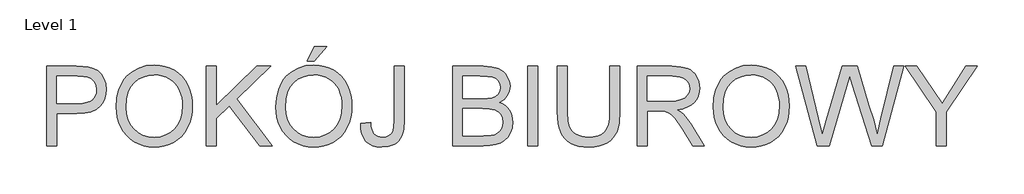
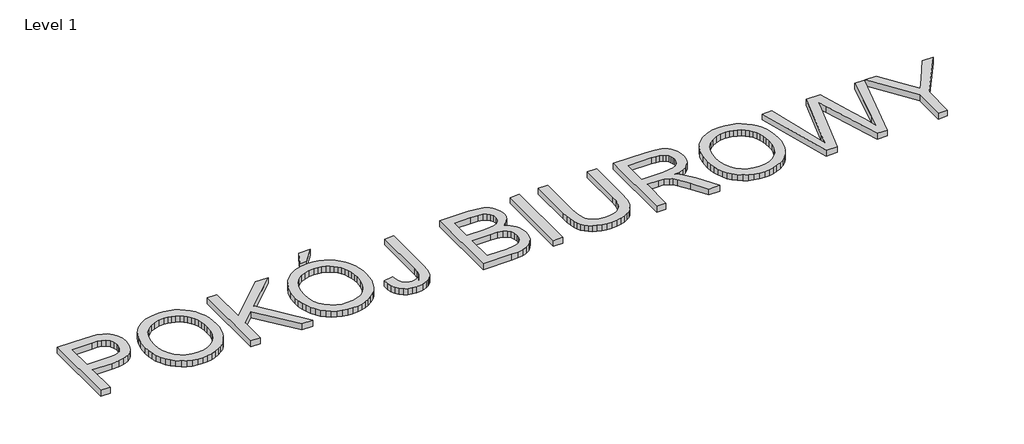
# One storey, part 4 of 4: 1 proxy.
"""IFC4 building model written with IfcOpenShell, lengths in millimetres."""

from ifc_helpers import new_model, si_unit, origin, origin_with_axes, place, context, project, spatial, polyline, outline, extrude, element, save

model = new_model("IFC4")

# Units and contexts
model_context = context("Model", 3, world=origin())
ifc_project = project(units=[si_unit("LENGTHUNIT", "METRE", prefix="MILLI")], contexts=[model_context])

# Site, building, storey
site = spatial("IfcSite", under=ifc_project)
building = spatial("IfcBuilding", under=site)
storey = spatial("IfcBuildingStorey", under=building, Name="Level 1", Elevation=0.0)

# Proxy
placement = place(None, origin())
element("IfcBuildingElementProxy", 1, Name="600mm Arial", ObjectType="600mm Arial", at=placement, inside=storey, context=model_context, shape_type="SweptSolid", body=[
    extrude(outline(polyline([(-1523.9930855, 10203.2190607), (-1523.9930855, 10805.9569216), (-1300.615138, 10805.9569216), (-1248.5966239, 10804.5221818), (-1210.5576256, 10800.2179624), (-1170.4033058, 10789.4942023), (-1137.3491086, 10772.0382016), (-1110.7328462, 10747.0590141), (-1089.8923312, 10713.7656936), (-1076.4278502, 10674.4942906), (-1071.9396898, 10631.5808559), (-1074.9701178, 10594.5811242), (-1084.0614016, 10560.5428426), (-1099.2135412, 10529.466011), (-1120.4265368, 10501.3506296), (-1149.5489952, 10478.0453052), (-1188.4295236, 10461.3986449), (-1237.0681219, 10451.4106487), (-1295.4647901, 10448.0813167), (-1448.6508529, 10448.0813167), (-1448.6508529, 10203.2190607), (-1523.9930855, 10203.2190607)]), holes=[polyline([(-1448.6508529, 10523.4235493), (-1291.0502061, 10523.4235493), (-1254.8138296, 10525.1525947), (-1224.2428358, 10530.3397308), (-1199.3372247, 10538.9849577), (-1180.0969964, 10551.0882753), (-1165.7404015, 10566.327787), (-1155.4856909, 10584.3815959), (-1149.3328646, 10605.2497021), (-1147.2819224, 10628.9321055), (-1152.1195707, 10662.777249), (-1166.6325154, 10691.3248919), (-1189.0181348, 10712.8092004), (-1217.4738071, 10725.464341), (-1246.5364847, 10729.327102), (-1292.8160397, 10730.614689), (-1448.6508529, 10730.614689), (-1448.6508529, 10523.4235493)])]), origin_with_axes(), (0.0, 0.0, 1.0), 50.0),
    extrude(outline(polyline([(-996.5974572, 10496.64174), (-991.575868, 10567.3394624), (-976.5111003, 10629.9253869), (-951.4031541, 10684.3995133), (-935.0829891, 10708.5946523), (-916.2520295, 10730.7618418), (-873.1638508, 10767.7799675), (-824.2447425, 10794.2214859), (-769.4947045, 10810.086397), (-708.913737, 10815.3747006), (-668.3639441, 10812.8914972), (-629.8558962, 10805.4418868), (-593.3895934, 10793.0258694), (-558.9650357, 10775.6434452), (-527.5479134, 10753.8188458), (-500.1039165, 10728.0763032), (-476.6330452, 10698.4158173), (-457.1352995, 10664.8373882), (-441.8130144, 10628.104371), (-430.868525, 10588.9801208), (-424.3018314, 10547.4646377), (-422.1129335, 10503.5579215), (-424.4167945, 10459.0717913), (-431.3283775, 10416.9952881), (-442.8476825, 10377.3284119), (-458.9747095, 10340.0711629), (-479.3277808, 10306.2076252), (-503.5252191, 10276.7218833), (-531.5670242, 10251.6139371), (-563.4531961, 10230.8837867), (-597.9283376, 10214.6601907), (-633.7370513, 10203.0719079), (-670.8793372, 10196.1189382), (-709.3551954, 10193.8012816), (-750.6131611, 10196.36266), (-789.6270467, 10204.0467952), (-826.3968521, 10216.8536871), (-860.9225774, 10234.7833359), (-892.3029116, 10257.1413641), (-919.6365438, 10283.2333946), (-942.9234741, 10313.0594274), (-962.1637025, 10346.6194624), (-977.2284702, 10382.5661318), (-987.9890185, 10419.5520679), (-994.4453475, 10457.5772707), (-996.5974572, 10496.64174)]), holes=[polyline([(-921.2552246, 10495.905976), (-917.4890327, 10445.9567981), (-906.1904569, 10401.6178207), (-887.3594973, 10362.8890436), (-860.9961538, 10329.770467), (-828.9490335, 10303.2461752), (-793.0667434, 10284.3002524), (-753.3492835, 10272.9326988), (-709.7966538, 10269.1435142), (-665.499063, 10272.969487), (-625.3125536, 10284.4474052), (-589.2371254, 10303.577269), (-557.2727786, 10330.3590782), (-531.1025731, 10364.1766306), (-512.4095693, 10404.4137238), (-501.1937669, 10451.0703579), (-497.4551661, 10504.1465327), (-499.0554528, 10538.6262727), (-503.8563129, 10570.8435385), (-511.8577463, 10600.7983299), (-523.059753, 10628.4906471), (-537.338173, 10653.5572065), (-554.5688459, 10675.6347248), (-574.7517719, 10694.7232018), (-597.8869508, 10710.8226376), (-623.2570129, 10723.6019384), (-650.1445882, 10732.7300104), (-678.5496768, 10738.2068536), (-708.4722786, 10740.032468), (-750.5119936, 10736.5145965), (-789.5166821, 10725.9609817), (-825.4863442, 10708.3716238), (-858.4209798, 10683.7465228), (-885.9109619, 10650.8992591), (-905.5466634, 10608.6434135), (-917.3280843, 10556.9789858), (-921.2552246, 10495.905976)])]), origin_with_axes(), (0.0, 0.0, 1.0), 50.0),
    extrude(outline(polyline([(-318.5173637, 10203.2190607), (-318.5173637, 10805.9569216), (-243.1751311, 10805.9569216), (-243.1751311, 10510.9155614), (65.8457449, 10805.9569216), (171.2071483, 10805.9569216), (-88.2232347, 10558.1516096), (180.6249274, 10203.2190607), (88.5072758, 10203.2190607), (-141.6397004, 10507.2367415), (-243.1751311, 10410.4102004), (-243.1751311, 10203.2190607), (-318.5173637, 10203.2190607)])), origin_with_axes(), (0.0, 0.0, 1.0), 50.0),
    extrude(outline(polyline([(208.8782646, 10496.64174), (213.8998538, 10567.3394624), (228.9646215, 10629.9253869), (254.0725677, 10684.3995133), (270.3927327, 10708.5946523), (289.2236923, 10730.7618418), (332.311871, 10767.7799675), (381.2309793, 10794.2214859), (435.9810173, 10810.086397), (496.5619848, 10815.3747006), (537.1117777, 10812.8914972), (575.6198256, 10805.4418868), (612.0861284, 10793.0258694), (646.5106861, 10775.6434452), (677.9278084, 10753.8188458), (705.3718053, 10728.0763032), (728.8426766, 10698.4158173), (748.3404223, 10664.8373882), (763.6627074, 10628.104371), (774.6071968, 10588.9801208), (781.1738904, 10547.4646377), (783.3627883, 10503.5579215), (781.0589273, 10459.0717913), (774.1473443, 10416.9952881), (762.6280393, 10377.3284119), (746.5010123, 10340.0711629), (726.147941, 10306.2076252), (701.9505027, 10276.7218833), (673.9086976, 10251.6139371), (642.0225257, 10230.8837867), (607.5473842, 10214.6601907), (571.7386705, 10203.0719079), (534.5963846, 10196.1189382), (496.1205264, 10193.8012816), (454.8625607, 10196.36266), (415.8486751, 10204.0467952), (379.0788697, 10216.8536871), (344.5531444, 10234.7833359), (313.1728102, 10257.1413641), (285.839178, 10283.2333946), (262.5522477, 10313.0594274), (243.3120193, 10346.6194624), (228.2472516, 10382.5661318), (217.4867033, 10419.5520679), (211.0303743, 10457.5772707), (208.8782646, 10496.64174)]), holes=[polyline([(284.2204972, 10495.905976), (287.9866891, 10445.9567981), (299.2852649, 10401.6178207), (318.1162245, 10362.8890436), (344.479568, 10329.770467), (376.5266883, 10303.2461752), (412.4089784, 10284.3002524), (452.1264383, 10272.9326988), (495.679068, 10269.1435142), (539.9766588, 10272.969487), (580.1631682, 10284.4474052), (616.2385964, 10303.577269), (648.2029432, 10330.3590782), (674.3731487, 10364.1766306), (693.0661525, 10404.4137238), (704.2819549, 10451.0703579), (708.0205556, 10504.1465327), (706.420269, 10538.6262727), (701.6194089, 10570.8435385), (693.6179755, 10600.7983299), (682.4159688, 10628.4906471), (668.1375488, 10653.5572065), (650.9068759, 10675.6347248), (630.7239499, 10694.7232018), (607.588771, 10710.8226376), (582.2187089, 10723.6019384), (555.3311335, 10732.7300104), (526.926045, 10738.2068536), (497.0034432, 10740.032468), (454.9637282, 10736.5145965), (415.9590397, 10725.9609817), (379.9893776, 10708.3716238), (347.054742, 10683.7465228), (319.5647599, 10650.8992591), (299.9290584, 10608.6434135), (288.1476375, 10556.9789858), (284.2204972, 10495.905976)])]), origin_with_axes(), (0.0, 0.0, 1.0), 50.0),
    extrude(outline(polyline([(444.3227415, 10843.6280379), (500.829416, 10956.6413868), (595.0072067, 10956.6413868), (500.829416, 10843.6280379), (444.3227415, 10843.6280379)])), origin_with_axes(), (0.0, 0.0, 1.0), 50.0),
    extrude(outline(polyline([(849.2872418, 10372.4447785), (924.6294744, 10382.1568631), (927.2874218, 10352.2020717), (932.4653609, 10327.379234), (940.1632917, 10307.6883503), (950.3812141, 10293.1294203), (962.9627783, 10282.6355864), (977.7516345, 10275.1399907), (994.7477827, 10270.6426333), (1013.9512228, 10269.1435142), (1041.7814958, 10272.5464227), (1065.5282786, 10282.755148), (1083.8488019, 10298.8315912), (1095.4002966, 10319.8376531), (1101.5255318, 10350.2431), (1103.5672769, 10394.5176982), (1103.5672769, 10805.9569216), (1178.9095095, 10805.9569216), (1178.9095095, 10395.8420733), (1174.3661668, 10328.7587915), (1168.6869885, 10301.6320929), (1160.7361389, 10278.7820225), (1150.3158814, 10259.2980723), (1137.2284794, 10242.2697345), (1121.473933, 10227.6970089), (1103.0522421, 10215.5798957), (1060.1388073, 10199.2459351), (1010.4195557, 10193.8012816), (973.2910653, 10196.6109803), (940.779494, 10205.0400765), (912.8848417, 10219.0885702), (889.6071085, 10238.7564614), (871.3601615, 10263.9701737), (858.5578681, 10294.6561306), (851.2002282, 10330.8143322), (849.2872418, 10372.4447785)])), origin_with_axes(), (0.0, 0.0, 1.0), 50.0),
    extrude(outline(polyline([(1546.2028935, 10203.2190607), (1546.2028935, 10805.9569216), (1776.2027168, 10805.9569216), (1839.4600259, 10801.5239435), (1888.8481838, 10788.2250094), (1908.9253437, 10778.1680354), (1926.7032411, 10765.7290254), (1942.181876, 10750.9079795), (1955.3612485, 10733.7048977), (1973.4058604, 10696.0337814), (1979.420731, 10656.5968315), (1974.3623535, 10620.3052727), (1959.1872212, 10586.1842177), (1933.7849695, 10556.3305937), (1898.0452336, 10532.8413284), (1920.7849395, 10523.1476378), (1940.7379392, 10510.5476794), (1957.9042328, 10495.0414533), (1972.2838203, 10476.6289595), (1983.6467754, 10455.8712179), (1991.7631719, 10433.3292487), (1996.6330098, 10409.0030517), (1998.2562891, 10382.8926271), (1993.8233111, 10340.8621092), (1980.524377, 10301.8850118), (1960.6771433, 10268.738844), (1936.5992667, 10244.2011149), (1907.1135248, 10226.4324146), (1871.0426952, 10213.5933329), (1827.2095555, 10205.8126287), (1774.4368833, 10203.2190607), (1546.2028935, 10203.2190607)]), holes=[polyline([(1621.5451261, 10561.0946656), (1759.1329923, 10561.0946656), (1807.2519572, 10562.7133464), (1839.47842, 10567.5693887), (1867.6029985, 10578.7346072), (1887.8181142, 10595.4548439), (1900.0134023, 10617.4725813), (1904.0784984, 10644.5303021), (1900.2893138, 10670.7970765), (1888.9217602, 10693.6793366), (1870.4908722, 10711.5400075), (1845.5116847, 10722.7420143), (1807.1783808, 10728.6465203), (1748.6851436, 10730.614689), (1621.5451261, 10730.614689), (1621.5451261, 10561.0946656)]), polyline([(1621.5451261, 10278.5612933), (1776.055564, 10278.5612933), (1831.9736273, 10281.5043492), (1857.9277021, 10288.0342547), (1879.2832519, 10297.9118862), (1896.6472821, 10312.0569489), (1910.6267979, 10331.3891478), (1919.8422419, 10355.0439601), (1922.9140565, 10382.1568631), (1919.308813, 10413.6475619), (1908.4930823, 10440.7236768), (1889.6023419, 10461.8952856), (1861.7720689, 10475.6724663), (1822.3535131, 10483.2324413), (1768.6979241, 10485.752433), (1621.5451261, 10485.752433), (1621.5451261, 10278.5612933)])]), origin_with_axes(), (0.0, 0.0, 1.0), 50.0),
    extrude(outline(polyline([(2111.269638, 10203.2190607), (2111.269638, 10805.9569216), (2186.6118707, 10805.9569216), (2186.6118707, 10203.2190607), (2111.269638, 10203.2190607)])), origin_with_axes(), (0.0, 0.0, 1.0), 50.0),
    extrude(outline(polyline([(2732.8430571, 10805.9569216), (2808.1852897, 10805.9569216), (2808.1852897, 10458.2348597), (2803.07173, 10376.8041801), (2796.6797803, 10343.1107879), (2787.7310508, 10314.098694), (2775.4529892, 10288.6688511), (2759.0730434, 10265.7222117), (2738.5912133, 10245.2587757), (2714.0074989, 10227.2785432), (2685.2943092, 10212.6322412), (2652.424053, 10202.170597), (2615.3967301, 10195.8936104), (2574.2123408, 10193.8012816), (2534.0442254, 10195.6222975), (2497.7112799, 10201.0853451), (2465.2135041, 10210.1904245), (2436.5508982, 10222.9375356), (2411.7188635, 10239.138139), (2390.7128016, 10258.603695), (2373.5327124, 10281.3342038), (2360.178596, 10307.3296653), (2350.1676072, 10337.4821933), (2343.0169009, 10372.6839018), (2338.7264771, 10412.9347905), (2337.2963359, 10458.2348597), (2337.2963359, 10805.9569216), (2412.6385685, 10805.9569216), (2412.6385685, 10460.8836101), (2416.3541766, 10393.1749289), (2427.5010011, 10346.0308512), (2436.2657896, 10328.6530255), (2447.6977226, 10313.3813241), (2461.7968001, 10300.2157472), (2478.563022, 10289.1562947), (2518.8093123, 10274.1467093), (2567.1490065, 10269.1435142), (2608.6736867, 10271.6175206), (2643.7788261, 10279.0395399), (2672.4644246, 10291.409572), (2694.7304824, 10308.7276169), (2711.4047338, 10333.081405), (2723.3149134, 10366.5586665), (2730.4610212, 10409.1594016), (2732.8430571, 10460.8836101), (2732.8430571, 10805.9569216)])), origin_with_axes(), (0.0, 0.0, 1.0), 50.0),
    extrude(outline(polyline([(2940.0341968, 10203.2190607), (2940.0341968, 10805.9569216), (3199.7588854, 10805.9569216), (3269.564494, 10801.8918255), (3320.3506034, 10789.6965374), (3339.9495167, 10780.0028468), (3357.4698967, 10767.1821593), (3372.9117435, 10751.2344748), (3386.2750569, 10732.1597933), (3397.0585979, 10710.983586), (3404.7611272, 10688.7313238), (3409.3826448, 10665.4030068), (3410.9231506, 10640.9986349), (3408.3709693, 10610.041365), (3400.7144252, 10581.6224809), (3387.9535185, 10555.7419826), (3370.0882491, 10532.39987), (3346.8886908, 10512.3411042), (3318.1249173, 10496.3106462), (3283.7969287, 10484.3084961), (3243.9047248, 10476.3346539), (3268.7367595, 10460.1110579), (3286.726189, 10444.1081911), (3317.5914884, 10407.5039326), (3347.7946002, 10366.5586665), (3448.2999613, 10203.2190607), (3360.7440465, 10203.2190607), (3282.3116051, 10328.1517862), (3225.6577778, 10410.8516587), (3204.5965336, 10434.9663235), (3185.852946, 10449.9207266), (3150.0212396, 10464.2681244), (3106.3168586, 10466.9168748), (3015.3764294, 10466.9168748), (3015.3764294, 10203.2190607), (2940.0341968, 10203.2190607)]), holes=[polyline([(3015.3764294, 10542.2591074), (3184.013536, 10542.2591074), (3232.4452007, 10544.9262519), (3270.0243465, 10552.9276853), (3298.3144719, 10566.7968365), (3318.8790754, 10587.0671344), (3331.4054574, 10611.5864694), (3335.580918, 10638.2027318), (3333.5897567, 10657.4705513), (3327.6162728, 10674.9541431), (3317.6604663, 10690.6535072), (3303.7223372, 10704.5686437), (3285.4799888, 10715.9637885), (3262.6115243, 10724.1031776), (3235.1169436, 10728.9868111), (3202.9962469, 10730.614689), (3015.3764294, 10730.614689), (3015.3764294, 10542.2591074)])]), origin_with_axes(), (0.0, 0.0, 1.0), 50.0),
    extrude(outline(polyline([(3514.5187205, 10496.64174), (3519.5403097, 10567.3394624), (3534.6050774, 10629.9253869), (3559.7130236, 10684.3995133), (3576.0331886, 10708.5946523), (3594.8641482, 10730.7618418), (3637.9523269, 10767.7799675), (3686.8714352, 10794.2214859), (3741.6214731, 10810.086397), (3802.2024407, 10815.3747006), (3842.7522336, 10812.8914972), (3881.2602814, 10805.4418868), (3917.7265842, 10793.0258694), (3952.1511419, 10775.6434452), (3983.5682643, 10753.8188458), (4011.0122611, 10728.0763032), (4034.4831324, 10698.4158173), (4053.9808782, 10664.8373882), (4069.3031633, 10628.104371), (4080.2476526, 10588.9801208), (4086.8143462, 10547.4646377), (4089.0032441, 10503.5579215), (4086.6993831, 10459.0717913), (4079.7878001, 10416.9952881), (4068.2684952, 10377.3284119), (4052.1414682, 10340.0711629), (4031.7883968, 10306.2076252), (4007.5909586, 10276.7218833), (3979.5491535, 10251.6139371), (3947.6629816, 10230.8837867), (3913.1878401, 10214.6601907), (3877.3791264, 10203.0719079), (3840.2368405, 10196.1189382), (3801.7609823, 10193.8012816), (3760.5030165, 10196.36266), (3721.4891309, 10204.0467952), (3684.7193255, 10216.8536871), (3650.1936003, 10234.7833359), (3618.8132661, 10257.1413641), (3591.4796338, 10283.2333946), (3568.1927035, 10313.0594274), (3548.9524752, 10346.6194624), (3533.8877075, 10382.5661318), (3523.1271591, 10419.5520679), (3516.6708301, 10457.5772707), (3514.5187205, 10496.64174)]), holes=[polyline([(3589.8609531, 10495.905976), (3593.627145, 10445.9567981), (3604.9257208, 10401.6178207), (3623.7566804, 10362.8890436), (3650.1200239, 10329.770467), (3682.1671442, 10303.2461752), (3718.0494343, 10284.3002524), (3757.7668942, 10272.9326988), (3801.3195239, 10269.1435142), (3845.6171146, 10272.969487), (3885.8036241, 10284.4474052), (3921.8790522, 10303.577269), (3953.8433991, 10330.3590782), (3980.0136045, 10364.1766306), (3998.7066084, 10404.4137238), (4009.9224107, 10451.0703579), (4013.6610115, 10504.1465327), (4012.0607248, 10538.6262727), (4007.2598648, 10570.8435385), (3999.2584314, 10600.7983299), (3988.0564246, 10628.4906471), (3973.7780047, 10653.5572065), (3956.5473318, 10675.6347248), (3936.3644058, 10694.7232018), (3913.2292268, 10710.8226376), (3887.8591647, 10723.6019384), (3860.9715894, 10732.7300104), (3832.5665009, 10738.2068536), (3802.6438991, 10740.032468), (3760.6041841, 10736.5145965), (3721.5994955, 10725.9609817), (3685.6298335, 10708.3716238), (3652.6951978, 10683.7465228), (3625.2052158, 10650.8992591), (3605.5695143, 10608.6434135), (3593.7880934, 10556.9789858), (3589.8609531, 10495.905976)])]), origin_with_axes(), (0.0, 0.0, 1.0), 50.0),
    extrude(outline(polyline([(4300.4618149, 10203.2190607), (4136.0921395, 10805.9569216), (4213.7888169, 10805.9569216), (4309.14383, 10409.8215892), (4338.5743896, 10287.537614), (4370.0650884, 10395.6949205), (4489.5531605, 10805.9569216), (4601.5364398, 10805.9569216), (4688.3565907, 10508.5611167), (4725.5494604, 10398.1965181), (4752.956669, 10287.537614), (4781.5043118, 10406.289922), (4877.7422418, 10805.9569216), (4955.4389192, 10805.9569216), (4790.9220909, 10203.2190607), (4710.4295104, 10203.2190607), (4565.9254627, 10668.2219026), (4545.7655293, 10733.1162865), (4523.1039984, 10654.9781507), (4391.4022442, 10203.2190607), (4300.4618149, 10203.2190607)])), origin_with_axes(), (0.0, 0.0, 1.0), 50.0),
    extrude(outline(polyline([(5200.3011752, 10203.2190607), (5200.3011752, 10458.5291653), (4964.8566982, 10805.9569216), (5053.7369883, 10805.9569216), (5179.4054778, 10620.3972432), (5243.7112506, 10525.777994), (5308.1641761, 10627.1662719), (5422.2075946, 10805.9569216), (5511.0878847, 10805.9569216), (5275.6434078, 10458.5291653), (5275.6434078, 10203.2190607), (5200.3011752, 10203.2190607)])), origin_with_axes(), (0.0, 0.0, 1.0), 50.0),
])

save(model, "model.ifc")
